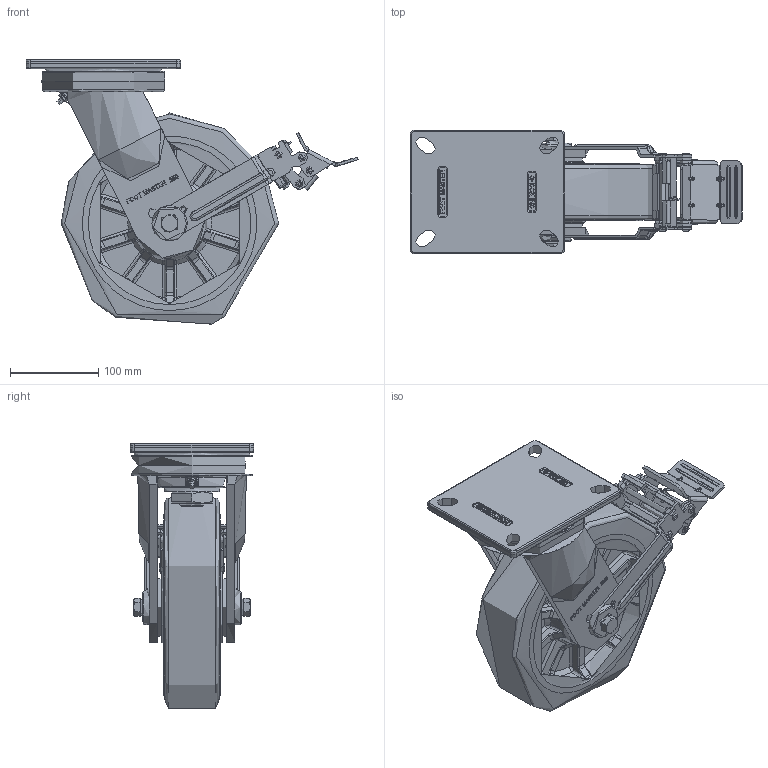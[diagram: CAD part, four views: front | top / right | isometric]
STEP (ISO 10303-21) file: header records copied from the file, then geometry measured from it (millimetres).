
FILE_DESCRIPTION(/* description */ (''),/* implementation_level */ '2;1');
FILE_NAME(/* name */ 'Y:\1.기술연구소\2.연구개발 진행중\133.고하중캐스터 브레이크 타입 변경건_2025.11.03\1.도면\4.홈페이지용 도면\01. 3D\GXT-250 SERIES\GXT-250-STEP\GXT-250-BSF-HUD-TB.stp',/* time_stamp */ '2026-07-22T08:20:38+09:00',/* author */ ('장용하'),/* organization */ (''),/* preprocessor_version */ 'ST-DEVELOPER v18.1',/* originating_system */ 'Autodesk Inventor 2021',/* authorisation */ '');
FILE_SCHEMA (('CONFIG_CONTROL_DESIGN'));
Products named in the file (1): GXT-250-BSF-HUD-TB
Bounding box: 375.69 x 140 x 299.17 mm (x, y, z)
Topology: 1 solids, 5 shells, 2483 faces, 6449 edges, 4056 vertices
Faces by surface type: plane 829, bspline 783, cylinder 629, torus 190, cone 40, sphere 12
Full cylindrical faces by diameter (mm): 2 x7, 4 x7, 6.2 x14, 6.8 x4, 8 x6, 8.5 x6, 12 x2, 12.5 x2, 13 x2, 30 x1, 40 x2, 62.5 x1, 65 x2, 131.086 x1
Entity records: 90522 total; most frequent: CARTESIAN_POINT 33618, ORIENTED_EDGE 12894, DIRECTION 10290, EDGE_CURVE 6447, VERTEX_POINT 4055, AXIS2_PLACEMENT_3D 3729, LINE 2832, VECTOR 2832
